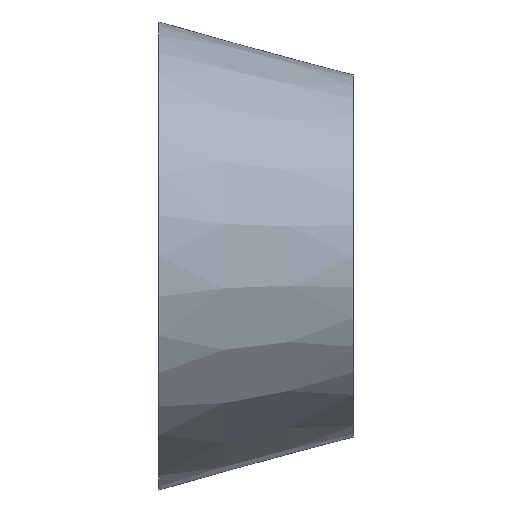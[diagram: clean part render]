
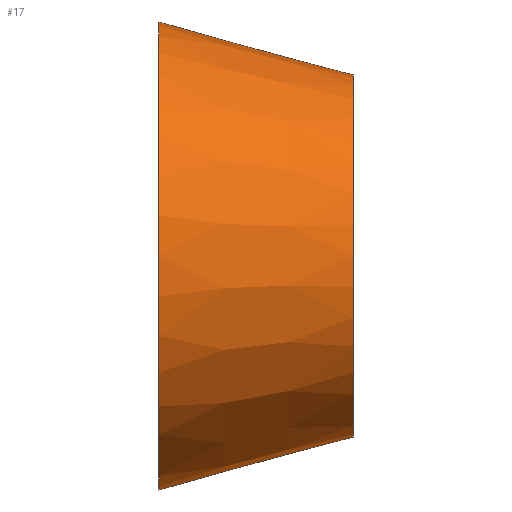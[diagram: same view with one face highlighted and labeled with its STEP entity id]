
A CAD part, front view. The second image highlights one B-rep face of the part: STEP entity #17.
In plain terms, the highlighted conical face has half-angle 15.255 degrees and reference radius 26.5 mm.
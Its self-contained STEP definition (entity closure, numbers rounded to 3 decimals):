
#17 = ADVANCED_FACE('',(#18),#31,.T.);
#18 = FACE_BOUND('',#19,.T.);
#19 = EDGE_LOOP('',(#20,#54,#74,#101));
#20 = ORIENTED_EDGE('',*,*,#21,.T.);
#21 = EDGE_CURVE('',#22,#22,#24,.T.);
#22 = VERTEX_POINT('',#23);
#23 = CARTESIAN_POINT('',(0.,26.5,0.));
#24 = SURFACE_CURVE('',#25,(#30,#42),.PCURVE_S1.);
#25 = CIRCLE('',#26,26.5);
#26 = AXIS2_PLACEMENT_3D('',#27,#28,#29);
#27 = CARTESIAN_POINT('',(0.,0.,0.));
#28 = DIRECTION('',(1.,0.,0.));
#29 = DIRECTION('',(0.,1.,0.));
#30 = PCURVE('',#31,#36);
#31 = CONICAL_SURFACE('',#32,26.5,0.266);
#32 = AXIS2_PLACEMENT_3D('',#33,#34,#35);
#33 = CARTESIAN_POINT('',(0.,0.,0.));
#34 = DIRECTION('',(-1.,-0.,-0.));
#35 = DIRECTION('',(0.,1.,0.));
#36 = DEFINITIONAL_REPRESENTATION('',(#37),#41);
#37 = LINE('',#38,#39);
#38 = CARTESIAN_POINT('',(-0.,-0.));
#39 = VECTOR('',#40,1.);
#40 = DIRECTION('',(-1.,-0.));
#41 = ( GEOMETRIC_REPRESENTATION_CONTEXT(2) 
PARAMETRIC_REPRESENTATION_CONTEXT() REPRESENTATION_CONTEXT('2D SPACE',''
  ) );
#42 = PCURVE('',#43,#48);
#43 = PLANE('',#44);
#44 = AXIS2_PLACEMENT_3D('',#45,#46,#47);
#45 = CARTESIAN_POINT('',(0.,0.,0.));
#46 = DIRECTION('',(1.,0.,0.));
#47 = DIRECTION('',(0.,1.,0.));
#48 = DEFINITIONAL_REPRESENTATION('',(#49),#53);
#49 = CIRCLE('',#50,26.5);
#50 = AXIS2_PLACEMENT_2D('',#51,#52);
#51 = CARTESIAN_POINT('',(0.,0.));
#52 = DIRECTION('',(1.,0.));
#53 = ( GEOMETRIC_REPRESENTATION_CONTEXT(2) 
PARAMETRIC_REPRESENTATION_CONTEXT() REPRESENTATION_CONTEXT('2D SPACE',''
  ) );
#54 = ORIENTED_EDGE('',*,*,#55,.T.);
#55 = EDGE_CURVE('',#22,#56,#58,.T.);
#56 = VERTEX_POINT('',#57);
#57 = CARTESIAN_POINT('',(22.,20.5,0.));
#58 = SEAM_CURVE('',#59,(#62,#68),.PCURVE_S1.);
#59 = B_SPLINE_CURVE_WITH_KNOTS('',1,(#60,#61),.UNSPECIFIED.,.F.,.F.,(2,
    2),(0.,1.),.PIECEWISE_BEZIER_KNOTS.);
#60 = CARTESIAN_POINT('',(0.,26.5,0.));
#61 = CARTESIAN_POINT('',(22.,20.5,0.));
#62 = PCURVE('',#31,#63);
#63 = DEFINITIONAL_REPRESENTATION('',(#64),#67);
#64 = B_SPLINE_CURVE_WITH_KNOTS('',1,(#65,#66),.UNSPECIFIED.,.F.,.F.,(2,
    2),(0.,1.),.PIECEWISE_BEZIER_KNOTS.);
#65 = CARTESIAN_POINT('',(-6.283,0.));
#66 = CARTESIAN_POINT('',(-6.283,-22.));
#67 = ( GEOMETRIC_REPRESENTATION_CONTEXT(2) 
PARAMETRIC_REPRESENTATION_CONTEXT() REPRESENTATION_CONTEXT('2D SPACE',''
  ) );
#68 = PCURVE('',#31,#69);
#69 = DEFINITIONAL_REPRESENTATION('',(#70),#73);
#70 = B_SPLINE_CURVE_WITH_KNOTS('',1,(#71,#72),.UNSPECIFIED.,.F.,.F.,(2,
    2),(0.,1.),.PIECEWISE_BEZIER_KNOTS.);
#71 = CARTESIAN_POINT('',(0.,0.));
#72 = CARTESIAN_POINT('',(0.,-22.));
#73 = ( GEOMETRIC_REPRESENTATION_CONTEXT(2) 
PARAMETRIC_REPRESENTATION_CONTEXT() REPRESENTATION_CONTEXT('2D SPACE',''
  ) );
#74 = ORIENTED_EDGE('',*,*,#75,.F.);
#75 = EDGE_CURVE('',#56,#56,#76,.T.);
#76 = SURFACE_CURVE('',#77,(#82,#89),.PCURVE_S1.);
#77 = CIRCLE('',#78,20.5);
#78 = AXIS2_PLACEMENT_3D('',#79,#80,#81);
#79 = CARTESIAN_POINT('',(22.,0.,0.));
#80 = DIRECTION('',(1.,0.,0.));
#81 = DIRECTION('',(0.,1.,0.));
#82 = PCURVE('',#31,#83);
#83 = DEFINITIONAL_REPRESENTATION('',(#84),#88);
#84 = LINE('',#85,#86);
#85 = CARTESIAN_POINT('',(-0.,-22.));
#86 = VECTOR('',#87,1.);
#87 = DIRECTION('',(-1.,-0.));
#88 = ( GEOMETRIC_REPRESENTATION_CONTEXT(2) 
PARAMETRIC_REPRESENTATION_CONTEXT() REPRESENTATION_CONTEXT('2D SPACE',''
  ) );
#89 = PCURVE('',#90,#95);
#90 = PLANE('',#91);
#91 = AXIS2_PLACEMENT_3D('',#92,#93,#94);
#92 = CARTESIAN_POINT('',(22.,0.,0.));
#93 = DIRECTION('',(1.,0.,0.));
#94 = DIRECTION('',(0.,1.,0.));
#95 = DEFINITIONAL_REPRESENTATION('',(#96),#100);
#96 = CIRCLE('',#97,20.5);
#97 = AXIS2_PLACEMENT_2D('',#98,#99);
#98 = CARTESIAN_POINT('',(0.,0.));
#99 = DIRECTION('',(1.,0.));
#100 = ( GEOMETRIC_REPRESENTATION_CONTEXT(2) 
PARAMETRIC_REPRESENTATION_CONTEXT() REPRESENTATION_CONTEXT('2D SPACE',''
  ) );
#101 = ORIENTED_EDGE('',*,*,#55,.F.);
